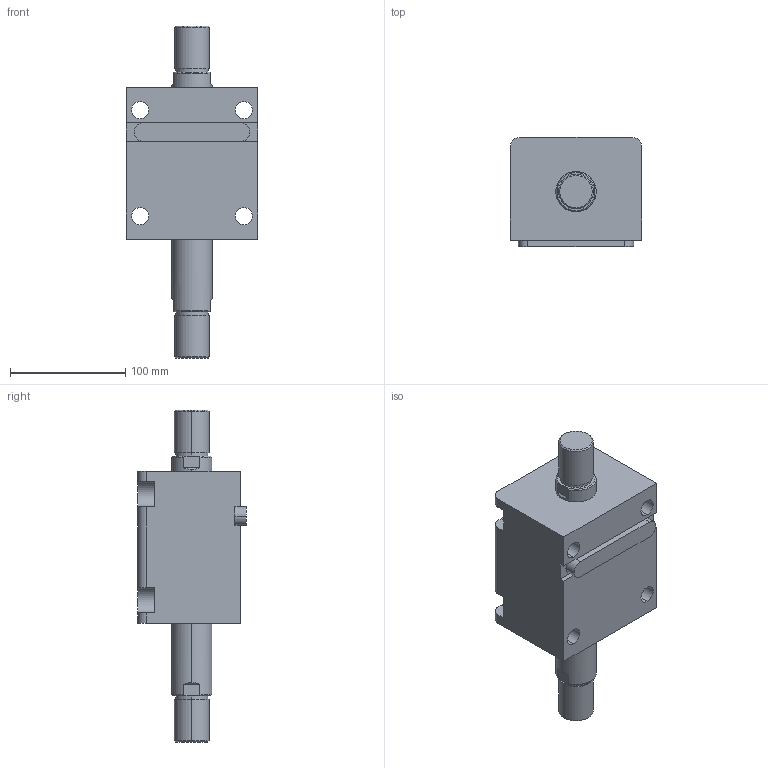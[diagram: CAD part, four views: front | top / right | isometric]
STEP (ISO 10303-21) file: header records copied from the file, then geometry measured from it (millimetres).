
FILE_DESCRIPTION (( 'STEP AP203' ), '1' );
FILE_NAME ('HTB-LW63-50W.STEP', '2019-10-09T08:26:53', ( '微软用户' ), ( '微软中国' ), 'SwSTEP 2.0', 'SolidWorks 2012', '' );
FILE_SCHEMA (( 'CONFIG_CONTROL_DESIGN' ));
Length unit declared in the file: millimetre
Products named in the file (4): HTB-LW63-50W; HTB-LA63-瑩; HTB-LW63-50W活塞杆; HTB-LW63-50掛极
Assembly tree (3 placements, depth 2):
  HTB-LW63-50W
    HTB-LW63-50掛极
    HTB-LW63-50W活塞杆
    HTB-LA63-瑩
Bounding box: 114 x 94.5 x 288 mm (x, y, z)
Volume: 1281444.9 mm3; surface area: 156310.8 mm2
Topology: 3 solids, 3 shells, 109 faces, 265 edges, 174 vertices
Faces by surface type: plane 48, cylinder 45, cone 12, torus 4
Entity records: 3679 total; most frequent: CARTESIAN_POINT 610, DIRECTION 593, ORIENTED_EDGE 530, EDGE_CURVE 265, AXIS2_PLACEMENT_3D 229, VERTEX_POINT 174, VECTOR 135, LINE 135
